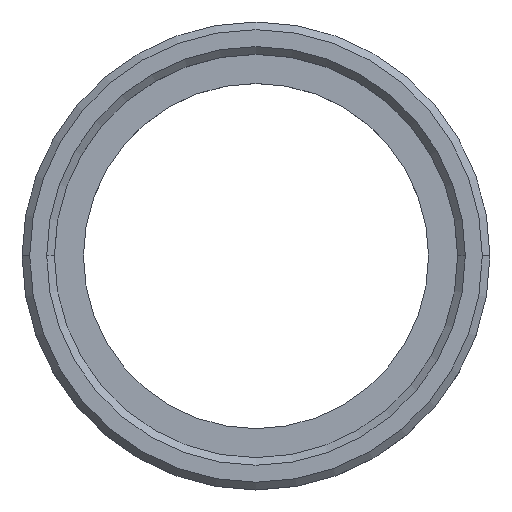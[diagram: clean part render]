
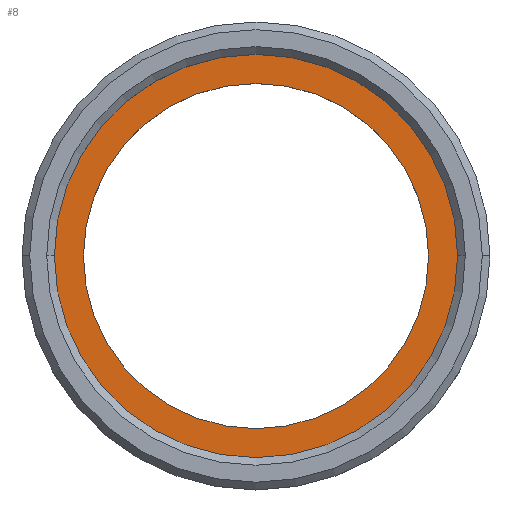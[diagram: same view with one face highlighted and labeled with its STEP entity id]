
A CAD part, top view. The second image highlights one B-rep face of the part: STEP entity #8.
In plain terms, the highlighted planar face has unit normal (0, 0, 1).
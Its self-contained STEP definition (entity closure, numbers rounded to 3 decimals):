
#8 = ADVANCED_FACE ( 'NONE', ( #282, #278 ), #467, .F. ) ;
#31 = EDGE_CURVE ( 'NONE', #109, #122, #359, .T. ) ;
#57 = EDGE_LOOP ( 'NONE', ( #135, #140 ) ) ;
#81 = ORIENTED_EDGE ( 'NONE', *, *, #506, .F. ) ;
#109 = VERTEX_POINT ( 'NONE', #424 ) ;
#111 = VERTEX_POINT ( 'NONE', #430 ) ;
#122 = VERTEX_POINT ( 'NONE', #401 ) ;
#126 = VERTEX_POINT ( 'NONE', #721 ) ;
#135 = ORIENTED_EDGE ( 'NONE', *, *, #371, .T. ) ;
#140 = ORIENTED_EDGE ( 'NONE', *, *, #31, .T. ) ;
#145 = ORIENTED_EDGE ( 'NONE', *, *, #739, .F. ) ;
#206 = CIRCLE ( 'NONE', #557, 11.25 ) ;
#278 = FACE_OUTER_BOUND ( 'NONE', #57, .T. ) ;
#282 = FACE_BOUND ( 'NONE', #357, .T. ) ;
#288 = CIRCLE ( 'NONE', #532, 13.145 ) ;
#357 = EDGE_LOOP ( 'NONE', ( #145, #81 ) ) ;
#359 = CIRCLE ( 'NONE', #529, 13.145 ) ;
#368 = CIRCLE ( 'NONE', #538, 11.25 ) ;
#371 = EDGE_CURVE ( 'NONE', #122, #109, #288, .T. ) ;
#375 = CARTESIAN_POINT ( 'NONE',  ( 0., 11.25, -12.2 ) ) ;
#377 = DIRECTION ( 'NONE',  ( -1., 0., 0. ) ) ;
#386 = CARTESIAN_POINT ( 'NONE',  ( 0., 0., -12.2 ) ) ;
#401 = CARTESIAN_POINT ( 'NONE',  ( 13.145, 0., -12.2 ) ) ;
#408 = DIRECTION ( 'NONE',  ( 0., 0., 1. ) ) ;
#424 = CARTESIAN_POINT ( 'NONE',  ( -13.145, 0., -12.2 ) ) ;
#430 = CARTESIAN_POINT ( 'NONE',  ( 11.25, 0., -12.2 ) ) ;
#450 = DIRECTION ( 'NONE',  ( 1., 0., 0. ) ) ;
#457 = DIRECTION ( 'NONE',  ( 0., 0., -1. ) ) ;
#467 = PLANE ( 'NONE',  #526 ) ;
#506 = EDGE_CURVE ( 'NONE', #126, #111, #368, .T. ) ;
#526 = AXIS2_PLACEMENT_3D ( 'NONE', #375, #457, #377 ) ;
#529 = AXIS2_PLACEMENT_3D ( 'NONE', #386, #408, #450 ) ;
#532 = AXIS2_PLACEMENT_3D ( 'NONE', #720, #637, #712 ) ;
#538 = AXIS2_PLACEMENT_3D ( 'NONE', #593, #595, #592 ) ;
#557 = AXIS2_PLACEMENT_3D ( 'NONE', #627, #625, #624 ) ;
#592 = DIRECTION ( 'NONE',  ( 1., 0., 0. ) ) ;
#593 = CARTESIAN_POINT ( 'NONE',  ( 0., 0., -12.2 ) ) ;
#595 = DIRECTION ( 'NONE',  ( 0., 0., 1. ) ) ;
#624 = DIRECTION ( 'NONE',  ( 1., 0., 0. ) ) ;
#625 = DIRECTION ( 'NONE',  ( 0., 0., 1. ) ) ;
#627 = CARTESIAN_POINT ( 'NONE',  ( 0., 0., -12.2 ) ) ;
#637 = DIRECTION ( 'NONE',  ( 0., 0., 1. ) ) ;
#712 = DIRECTION ( 'NONE',  ( 1., 0., 0. ) ) ;
#720 = CARTESIAN_POINT ( 'NONE',  ( 0., 0., -12.2 ) ) ;
#721 = CARTESIAN_POINT ( 'NONE',  ( -11.25, 0., -12.2 ) ) ;
#739 = EDGE_CURVE ( 'NONE', #111, #126, #206, .T. ) ;
